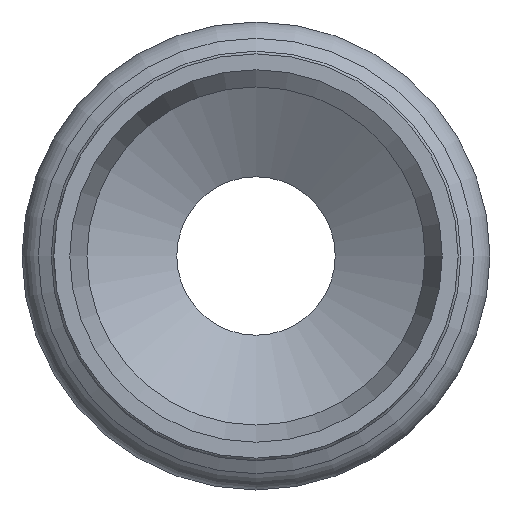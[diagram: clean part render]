
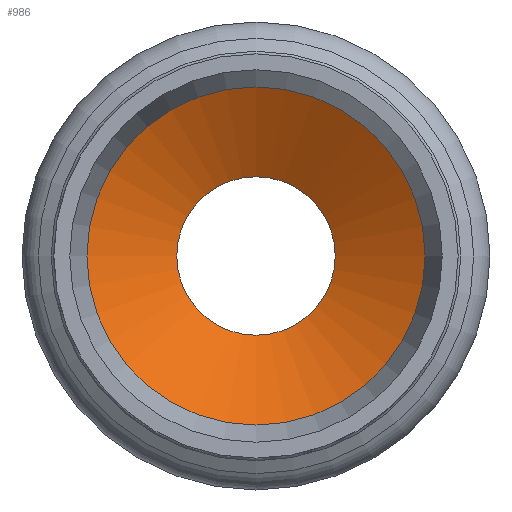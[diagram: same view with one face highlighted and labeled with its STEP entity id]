
A CAD part, left-side view. The second image highlights one B-rep face of the part: STEP entity #986.
In plain terms, the highlighted free-form (B-spline) face has degree [1, 2] with [2, 9] control points.
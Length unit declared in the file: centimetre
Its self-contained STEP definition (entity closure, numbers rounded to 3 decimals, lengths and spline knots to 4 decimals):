
#773=CARTESIAN_POINT('',(-7.5,0.,-16.0925));
#774=VERTEX_POINT('',#773);
#775=CARTESIAN_POINT('',(0.0,0.0,-16.0925));
#776=DIRECTION('',(0.0,0.0,1.0));
#777=DIRECTION('',(1.0,0.0,0.0));
#778=AXIS2_PLACEMENT_3D('',#775,#776,#777);
#779=CIRCLE('',#778,7.5);
#780=EDGE_CURVE('',#774,#774,#779,.T.);
#946=CARTESIAN_POINT('',(16.,0.,-21.0));
#947=CARTESIAN_POINT('',(7.5,0.,-16.0925));
#948=CARTESIAN_POINT('',(16.,-16.,-21.0));
#949=CARTESIAN_POINT('',(7.5,-7.5,-16.0925));
#950=CARTESIAN_POINT('',(0.,-16.,-21.0));
#951=CARTESIAN_POINT('',(0.,-7.5,-16.0925));
#952=CARTESIAN_POINT('',(-16.,-16.,-21.0));
#953=CARTESIAN_POINT('',(-7.5,-7.5,-16.0925));
#954=CARTESIAN_POINT('',(-16.,0.,-21.0));
#955=CARTESIAN_POINT('',(-7.5,0.,-16.0925));
#956=CARTESIAN_POINT('',(-16.,16.,-21.0));
#957=CARTESIAN_POINT('',(-7.5,7.5,-16.0925));
#958=CARTESIAN_POINT('',(0.,16.,-21.0));
#959=CARTESIAN_POINT('',(0.,7.5,-16.0925));
#960=CARTESIAN_POINT('',(16.,16.,-21.0));
#961=CARTESIAN_POINT('',(7.5,7.5,-16.0925));
#962=CARTESIAN_POINT('',(16.,0.,-21.0));
#963=CARTESIAN_POINT('',(7.5,0.,-16.0925));
#971=(BOUNDED_SURFACE()B_SPLINE_SURFACE(1,2,((#946,#948,#950,#952,#954,#956,#958,#960,#962),(#947,#949,#951,#953,#955,#957,#959,#961,#963)),.UNSPECIFIED.,.F.,.T.,.U.)B_SPLINE_SURFACE_WITH_KNOTS((2,2),(3,2,2,2,3),(-1.1547,0.0722),(0.0,12.5664,25.1327,37.6991,50.2655),.UNSPECIFIED.)GEOMETRIC_REPRESENTATION_ITEM()RATIONAL_B_SPLINE_SURFACE(((1.0,0.707,1.0,0.707,1.0,0.707,1.0,0.707,1.0),(1.0,0.707,1.0,0.707,1.0,0.707,1.0,0.707,1.0)))REPRESENTATION_ITEM('')SURFACE());
#972=ORIENTED_EDGE('',*,*,#780,.T.);
#973=EDGE_LOOP('',(#972));
#974=FACE_OUTER_BOUND('',#973,.T.);
#975=CARTESIAN_POINT('',(-16.0,0.0,-21.0));
#976=VERTEX_POINT('',#975);
#977=CARTESIAN_POINT('',(0.0,0.0,-21.0));
#978=DIRECTION('',(0.0,0.0,-1.0));
#979=DIRECTION('',(-1.0,0.0,0.0));
#980=AXIS2_PLACEMENT_3D('',#977,#978,#979);
#981=CIRCLE('',#980,16.0);
#982=EDGE_CURVE('',#976,#976,#981,.T.);
#983=ORIENTED_EDGE('',*,*,#982,.T.);
#984=EDGE_LOOP('',(#983));
#985=FACE_BOUND('',#984,.T.);
#986=ADVANCED_FACE('',(#974,#985),#971,.F.);
